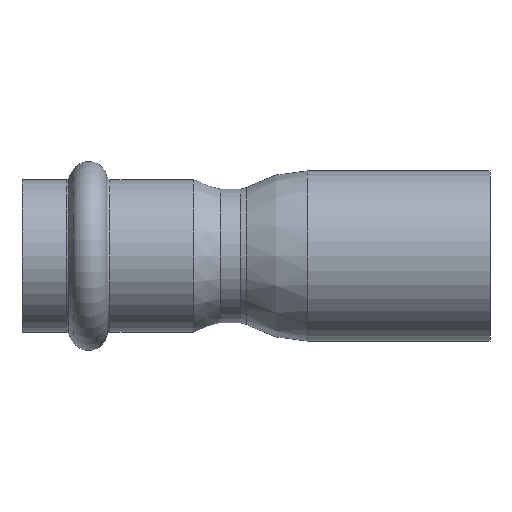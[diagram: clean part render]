
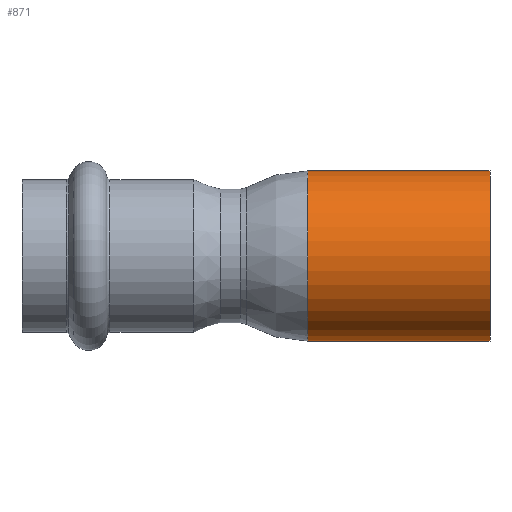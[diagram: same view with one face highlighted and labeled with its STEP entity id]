
A CAD part, front view. The second image highlights one B-rep face of the part: STEP entity #871.
In plain terms, the highlighted cylindrical face has radius 14 mm (diameter 28 mm), a full revolution.
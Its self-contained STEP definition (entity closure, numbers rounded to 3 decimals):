
#601=CARTESIAN_POINT('',(-30.0,14.,0.0));
#602=VERTEX_POINT('',#601);
#603=CARTESIAN_POINT('',(-30.0,0.,0.0));
#604=DIRECTION('',(1.0,0.0,0.0));
#605=DIRECTION('',(0.0,1.0,0.0));
#606=AXIS2_PLACEMENT_3D('',#603,#604,#605);
#607=CIRCLE('',#606,14.);
#608=EDGE_CURVE('',#602,#602,#607,.T.);
#852=CARTESIAN_POINT('',(-15.0,0.,0.0));
#853=DIRECTION('',(1.0,0.,0.0));
#854=DIRECTION('',(0.0,1.0,0.0));
#855=AXIS2_PLACEMENT_3D('',#852,#853,#854);
#856=CYLINDRICAL_SURFACE('',#855,14.);
#857=CARTESIAN_POINT('',(0.,14.,0.0));
#858=VERTEX_POINT('',#857);
#859=CARTESIAN_POINT('',(0.0,0.,0.0));
#860=DIRECTION('',(1.0,0.0,0.0));
#861=DIRECTION('',(0.0,1.0,0.0));
#862=AXIS2_PLACEMENT_3D('',#859,#860,#861);
#863=CIRCLE('',#862,14.);
#864=EDGE_CURVE('',#858,#858,#863,.T.);
#865=ORIENTED_EDGE('',*,*,#864,.F.);
#866=EDGE_LOOP('',(#865));
#867=FACE_OUTER_BOUND('',#866,.T.);
#868=ORIENTED_EDGE('',*,*,#608,.T.);
#869=EDGE_LOOP('',(#868));
#870=FACE_BOUND('',#869,.T.);
#871=ADVANCED_FACE('',(#867,#870),#856,.T.);
